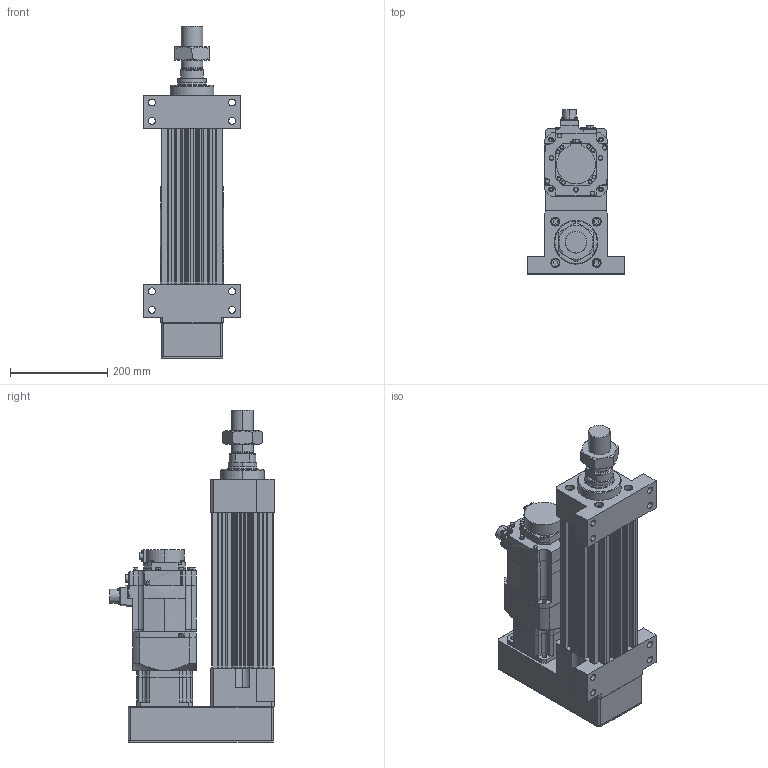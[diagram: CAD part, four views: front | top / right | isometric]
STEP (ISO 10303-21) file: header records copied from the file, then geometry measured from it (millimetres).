
FILE_DESCRIPTION (( 'STEP AP203' ), '1' );
FILE_NAME ('HES130NS(FS)(HS)-P100-W015G00-M-FFB.STEP', '2026-06-10T06:06:00', ( 'tms' ), ( '' ), 'SwSTEP 2.0', 'SolidWorks 2013', '' );
FILE_SCHEMA (( 'CONFIG_CONTROL_DESIGN' ));
Length unit declared in the file: millimetre
Products named in the file (8): HES130-P-G120; AB1152; M45X1.5P; HES130NS(FS)(HS)-P100-W015G00-M-FFB; HG-SR152B; HES130-M-ROD-100; HES130-FFB-100; AB1151
Assembly tree (7 placements, depth 2):
  HES130NS(FS)(HS)-P100-W015G00-M-FFB
    HES130-FFB-100
    HES130-M-ROD-100
    M45X1.5P
    HES130-P-G120
    AB1151
    AB1152
    HG-SR152B
Bounding box: 200 x 337.49 x 682 mm (x, y, z)
Volume: 9281156.9 mm3; surface area: 1088554.3 mm2
Topology: 5 solids, 12 shells, 1206 faces, 3060 edges, 1987 vertices
Faces by surface type: cylinder 568, plane 542, cone 82, bspline 10, torus 4
Entity records: 38313 total; most frequent: CARTESIAN_POINT 7368, DIRECTION 6633, ORIENTED_EDGE 6076, EDGE_CURVE 3048, AXIS2_PLACEMENT_3D 2473, VERTEX_POINT 1987, VECTOR 1687, LINE 1687
